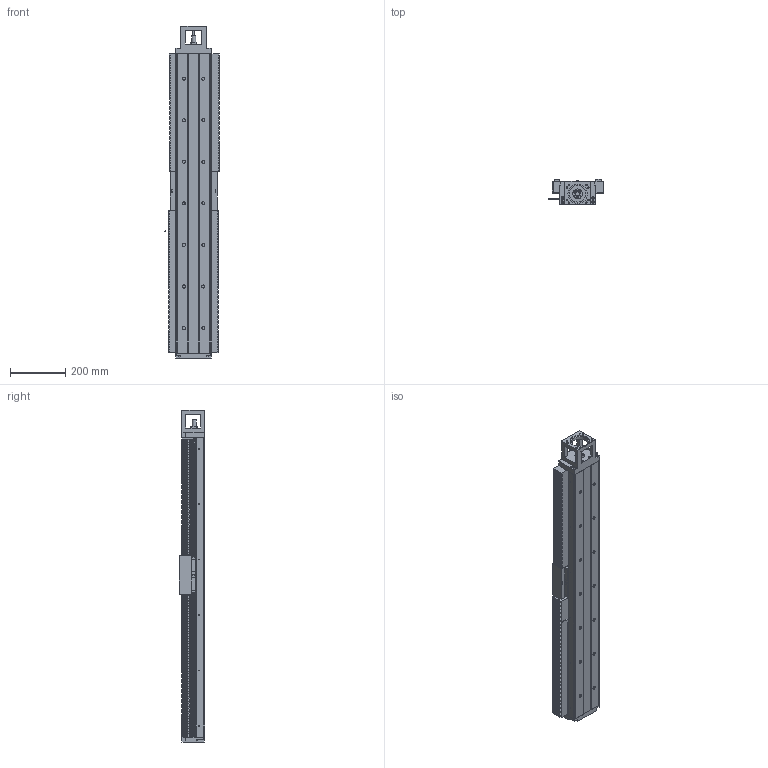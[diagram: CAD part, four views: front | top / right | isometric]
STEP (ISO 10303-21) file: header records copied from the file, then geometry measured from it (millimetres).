
FILE_DESCRIPTION(/* description */ (''),/* implementation_level */ '2;1');
FILE_NAME(/* name */ 'TKK130-1080A1F0B_stp.stp',/* time_stamp */ '2017-08-18T10:08:09+08:00',/* author */ (''),/* organization */ (''),/* preprocessor_version */ 'ST-DEVELOPER v15',/* originating_system */ 'SIEMENS PLM Software NX 8.5',/* authorisation */ '');
FILE_SCHEMA (('AUTOMOTIVE_DESIGN { 1 0 10303 214 3 1 1 1 }'));
Products named in the file (3): 022; 011; TKK130-1080A1F0B_stp
Assembly tree (2 placements, depth 2):
  TKK130-1080A1F0B_stp
    011
    022
Bounding box: 195.74 x 92 x 1198 mm (x, y, z)
Volume: 11909124.5 mm3; surface area: 1441992.4 mm2
Topology: 5 solids, 49 shells, 2519 faces, 6123 edges, 3722 vertices
Faces by surface type: plane 2030, cylinder 322, cone 127, extrusion 33, bspline 6, torus 1
Full cylindrical faces by diameter (mm): 2.1 x12, 2.5 x8, 3.3 x60, 4.5 x20, 5 x23, 6.6 x10, 6.8 x12, 7 x2, 8 x16, 8.5 x4, 9 x8, 11 x22, 12 x4, 15 x1, 16.3 x1, 17 x16, 17.5 x4, 25 x1, 35 x2, 40 x3, 60.03 x1, 70.03 x1
Entity records: 70502 total; most frequent: CARTESIAN_POINT 13389, DIRECTION 11127, ORIENTED_EDGE 11098, EDGE_CURVE 5549, VECTOR 4739, LINE 4706, VERTEX_POINT 3607, AXIS2_PLACEMENT_3D 3194
